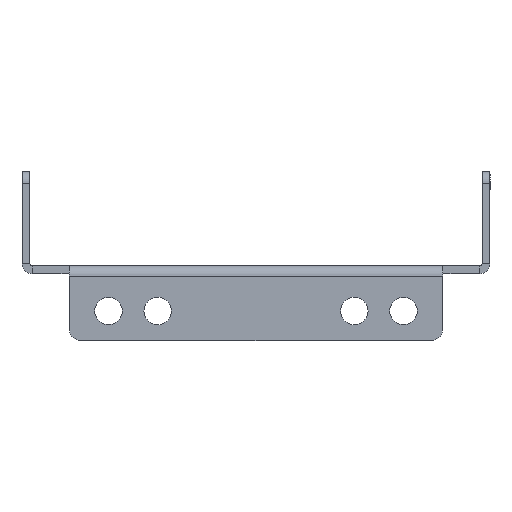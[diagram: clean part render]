
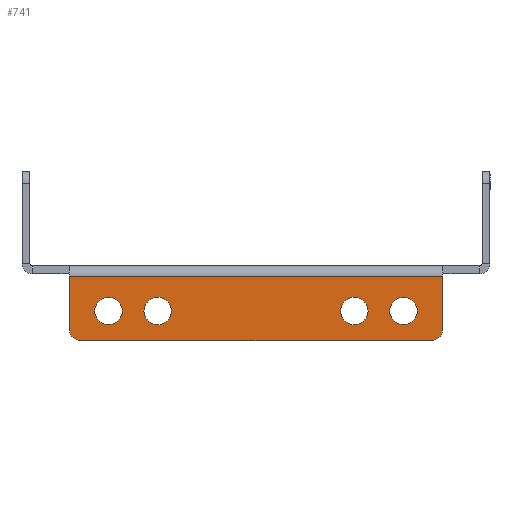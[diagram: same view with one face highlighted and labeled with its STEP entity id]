
A CAD part, left-side view. The second image highlights one B-rep face of the part: STEP entity #741.
In plain terms, the highlighted planar face has unit normal (-1, 0, 0).
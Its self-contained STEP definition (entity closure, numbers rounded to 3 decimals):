
#5 = DIRECTION ( 'NONE',  ( 0., 1., 0. ) ) ;
#25 = DIRECTION ( 'NONE',  ( -1., 0., 0. ) ) ;
#56 = VERTEX_POINT ( 'NONE', #1816 ) ;
#94 = DIRECTION ( 'NONE',  ( 0., 0., -1. ) ) ;
#218 = ORIENTED_EDGE ( 'NONE', *, *, #1894, .F. ) ;
#302 = CARTESIAN_POINT ( 'NONE',  ( -100., -25., -6. ) ) ;
#377 = DIRECTION ( 'NONE',  ( 0., 0., 1. ) ) ;
#435 = CIRCLE ( 'NONE', #3011, 3.5 ) ;
#439 = CIRCLE ( 'NONE', #1687, 3.5 ) ;
#461 = CARTESIAN_POINT ( 'NONE',  ( -100., 47.5, 0. ) ) ;
#539 = VECTOR ( 'NONE', #1649, 1000. ) ;
#568 = CIRCLE ( 'NONE', #1749, 3.5 ) ;
#583 = VERTEX_POINT ( 'NONE', #1236 ) ;
#610 = CARTESIAN_POINT ( 'NONE',  ( -100., 47.5, 0. ) ) ;
#629 = CARTESIAN_POINT ( 'NONE',  ( -100., -44.5, -17. ) ) ;
#637 = VERTEX_POINT ( 'NONE', #302 ) ;
#639 = VERTEX_POINT ( 'NONE', #2636 ) ;
#663 = CARTESIAN_POINT ( 'NONE',  ( -100., 25., -13. ) ) ;
#692 = DIRECTION ( 'NONE',  ( 0., 0., -1. ) ) ;
#710 = EDGE_CURVE ( 'NONE', #2357, #639, #997, .T. ) ;
#713 = DIRECTION ( 'NONE',  ( 0., 0., 1. ) ) ;
#726 = EDGE_LOOP ( 'NONE', ( #2999, #2786 ) ) ;
#741 = ADVANCED_FACE ( 'NONE', ( #1083, #802, #4141, #3764, #1455 ), #1767, .T. ) ;
#764 = AXIS2_PLACEMENT_3D ( 'NONE', #3022, #2693, #4040 ) ;
#799 = EDGE_CURVE ( 'NONE', #4334, #583, #1087, .T. ) ;
#802 = FACE_BOUND ( 'NONE', #2119, .T. ) ;
#906 = VECTOR ( 'NONE', #3746, 1000. ) ;
#997 = LINE ( 'NONE', #4316, #539 ) ;
#1028 = CIRCLE ( 'NONE', #2002, 3. ) ;
#1075 = VERTEX_POINT ( 'NONE', #663 ) ;
#1083 = FACE_BOUND ( 'NONE', #1553, .T. ) ;
#1087 = CIRCLE ( 'NONE', #3538, 3.5 ) ;
#1097 = ORIENTED_EDGE ( 'NONE', *, *, #4236, .T. ) ;
#1193 = CIRCLE ( 'NONE', #3637, 3.5 ) ;
#1222 = AXIS2_PLACEMENT_3D ( 'NONE', #461, #2087, #2442 ) ;
#1236 = CARTESIAN_POINT ( 'NONE',  ( -100., 37.5, -13. ) ) ;
#1263 = CARTESIAN_POINT ( 'NONE',  ( -100., -25., -13. ) ) ;
#1305 = DIRECTION ( 'NONE',  ( -1., 0., 0. ) ) ;
#1325 = CARTESIAN_POINT ( 'NONE',  ( -100., 47.5, -14. ) ) ;
#1427 = ORIENTED_EDGE ( 'NONE', *, *, #2879, .F. ) ;
#1455 = FACE_OUTER_BOUND ( 'NONE', #3030, .T. ) ;
#1483 = CARTESIAN_POINT ( 'NONE',  ( -100., 44.5, -14. ) ) ;
#1521 = CARTESIAN_POINT ( 'NONE',  ( -100., -25., -9.5 ) ) ;
#1545 = CARTESIAN_POINT ( 'NONE',  ( -100., 37.5, -6. ) ) ;
#1553 = EDGE_LOOP ( 'NONE', ( #1632, #218 ) ) ;
#1602 = EDGE_CURVE ( 'NONE', #1075, #1761, #3994, .T. ) ;
#1613 = DIRECTION ( 'NONE',  ( -1., 0., 0. ) ) ;
#1629 = CARTESIAN_POINT ( 'NONE',  ( -100., 47.5, -0.6 ) ) ;
#1632 = ORIENTED_EDGE ( 'NONE', *, *, #2497, .F. ) ;
#1649 = DIRECTION ( 'NONE',  ( 0., 1., 0. ) ) ;
#1687 = AXIS2_PLACEMENT_3D ( 'NONE', #1521, #1852, #1873 ) ;
#1749 = AXIS2_PLACEMENT_3D ( 'NONE', #3944, #1613, #1939 ) ;
#1761 = VERTEX_POINT ( 'NONE', #2232 ) ;
#1767 = PLANE ( 'NONE',  #1222 ) ;
#1811 = CARTESIAN_POINT ( 'NONE',  ( -100., -47.5, -17. ) ) ;
#1815 = CIRCLE ( 'NONE', #3284, 3. ) ;
#1816 = CARTESIAN_POINT ( 'NONE',  ( -100., 47.5, -0.6 ) ) ;
#1852 = DIRECTION ( 'NONE',  ( -1., 0., 0. ) ) ;
#1873 = DIRECTION ( 'NONE',  ( 0., 0., -1. ) ) ;
#1894 = EDGE_CURVE ( 'NONE', #3718, #2562, #568, .T. ) ;
#1939 = DIRECTION ( 'NONE',  ( 0., 0., -1. ) ) ;
#1965 = ORIENTED_EDGE ( 'NONE', *, *, #2866, .T. ) ;
#2002 = AXIS2_PLACEMENT_3D ( 'NONE', #1483, #3477, #2205 ) ;
#2018 = ORIENTED_EDGE ( 'NONE', *, *, #2532, .F. ) ;
#2034 = EDGE_LOOP ( 'NONE', ( #2909, #3266 ) ) ;
#2087 = DIRECTION ( 'NONE',  ( -1., 0., 0. ) ) ;
#2101 = AXIS2_PLACEMENT_3D ( 'NONE', #4089, #2767, #3380 ) ;
#2119 = EDGE_LOOP ( 'NONE', ( #2018, #2225 ) ) ;
#2205 = DIRECTION ( 'NONE',  ( 0., 0., 1. ) ) ;
#2225 = ORIENTED_EDGE ( 'NONE', *, *, #2673, .F. ) ;
#2232 = CARTESIAN_POINT ( 'NONE',  ( -100., 25., -6. ) ) ;
#2357 = VERTEX_POINT ( 'NONE', #629 ) ;
#2359 = VECTOR ( 'NONE', #4126, 1000. ) ;
#2375 = DIRECTION ( 'NONE',  ( -1., 0., 0. ) ) ;
#2434 = VERTEX_POINT ( 'NONE', #1325 ) ;
#2442 = DIRECTION ( 'NONE',  ( 0., 0., 1. ) ) ;
#2497 = EDGE_CURVE ( 'NONE', #2562, #3718, #1193, .T. ) ;
#2532 = EDGE_CURVE ( 'NONE', #637, #4059, #435, .T. ) ;
#2562 = VERTEX_POINT ( 'NONE', #4179 ) ;
#2636 = CARTESIAN_POINT ( 'NONE',  ( -100., 44.5, -17. ) ) ;
#2673 = EDGE_CURVE ( 'NONE', #4059, #637, #439, .T. ) ;
#2693 = DIRECTION ( 'NONE',  ( -1., 0., 0. ) ) ;
#2706 = CARTESIAN_POINT ( 'NONE',  ( -100., 37.5, -9.5 ) ) ;
#2717 = AXIS2_PLACEMENT_3D ( 'NONE', #4326, #1305, #377 ) ;
#2748 = CARTESIAN_POINT ( 'NONE',  ( -100., -47.5, -14. ) ) ;
#2755 = DIRECTION ( 'NONE',  ( 0., 0., 1. ) ) ;
#2767 = DIRECTION ( 'NONE',  ( -1., 0., 0. ) ) ;
#2786 = ORIENTED_EDGE ( 'NONE', *, *, #3581, .F. ) ;
#2866 = EDGE_CURVE ( 'NONE', #2434, #639, #1028, .T. ) ;
#2879 = EDGE_CURVE ( 'NONE', #3181, #3306, #3861, .T. ) ;
#2909 = ORIENTED_EDGE ( 'NONE', *, *, #3700, .F. ) ;
#2969 = ORIENTED_EDGE ( 'NONE', *, *, #4079, .T. ) ;
#2999 = ORIENTED_EDGE ( 'NONE', *, *, #799, .F. ) ;
#3011 = AXIS2_PLACEMENT_3D ( 'NONE', #3674, #25, #94 ) ;
#3022 = CARTESIAN_POINT ( 'NONE',  ( -100., 25., -9.5 ) ) ;
#3030 = EDGE_LOOP ( 'NONE', ( #4116, #1097, #1427, #2969, #3358, #1965 ) ) ;
#3062 = CARTESIAN_POINT ( 'NONE',  ( -100., -44.5, -14. ) ) ;
#3067 = CARTESIAN_POINT ( 'NONE',  ( -100., -37.5, -13. ) ) ;
#3144 = CIRCLE ( 'NONE', #764, 3.5 ) ;
#3181 = VERTEX_POINT ( 'NONE', #3653 ) ;
#3266 = ORIENTED_EDGE ( 'NONE', *, *, #1602, .F. ) ;
#3284 = AXIS2_PLACEMENT_3D ( 'NONE', #3062, #3767, #2755 ) ;
#3306 = VERTEX_POINT ( 'NONE', #2748 ) ;
#3345 = CARTESIAN_POINT ( 'NONE',  ( -100., -37.5, -9.5 ) ) ;
#3358 = ORIENTED_EDGE ( 'NONE', *, *, #4120, .F. ) ;
#3369 = LINE ( 'NONE', #1629, #3785 ) ;
#3380 = DIRECTION ( 'NONE',  ( 0., 0., 1. ) ) ;
#3477 = DIRECTION ( 'NONE',  ( -1., 0., 0. ) ) ;
#3538 = AXIS2_PLACEMENT_3D ( 'NONE', #2706, #2375, #713 ) ;
#3581 = EDGE_CURVE ( 'NONE', #583, #4334, #3701, .T. ) ;
#3637 = AXIS2_PLACEMENT_3D ( 'NONE', #3345, #3697, #692 ) ;
#3653 = CARTESIAN_POINT ( 'NONE',  ( -100., -47.5, -0.6 ) ) ;
#3674 = CARTESIAN_POINT ( 'NONE',  ( -100., -25., -9.5 ) ) ;
#3697 = DIRECTION ( 'NONE',  ( -1., 0., 0. ) ) ;
#3699 = LINE ( 'NONE', #610, #906 ) ;
#3700 = EDGE_CURVE ( 'NONE', #1761, #1075, #3144, .T. ) ;
#3701 = CIRCLE ( 'NONE', #2717, 3.5 ) ;
#3718 = VERTEX_POINT ( 'NONE', #3067 ) ;
#3746 = DIRECTION ( 'NONE',  ( 0., 0., 1. ) ) ;
#3764 = FACE_BOUND ( 'NONE', #726, .T. ) ;
#3767 = DIRECTION ( 'NONE',  ( -1., 0., 0. ) ) ;
#3785 = VECTOR ( 'NONE', #5, 1000. ) ;
#3861 = LINE ( 'NONE', #1811, #2359 ) ;
#3944 = CARTESIAN_POINT ( 'NONE',  ( -100., -37.5, -9.5 ) ) ;
#3994 = CIRCLE ( 'NONE', #2101, 3.5 ) ;
#4040 = DIRECTION ( 'NONE',  ( 0., 0., 1. ) ) ;
#4059 = VERTEX_POINT ( 'NONE', #1263 ) ;
#4079 = EDGE_CURVE ( 'NONE', #3181, #56, #3369, .T. ) ;
#4089 = CARTESIAN_POINT ( 'NONE',  ( -100., 25., -9.5 ) ) ;
#4116 = ORIENTED_EDGE ( 'NONE', *, *, #710, .F. ) ;
#4120 = EDGE_CURVE ( 'NONE', #2434, #56, #3699, .T. ) ;
#4126 = DIRECTION ( 'NONE',  ( 0., 0., -1. ) ) ;
#4141 = FACE_BOUND ( 'NONE', #2034, .T. ) ;
#4179 = CARTESIAN_POINT ( 'NONE',  ( -100., -37.5, -6. ) ) ;
#4236 = EDGE_CURVE ( 'NONE', #2357, #3306, #1815, .T. ) ;
#4316 = CARTESIAN_POINT ( 'NONE',  ( -100., 47.5, -17. ) ) ;
#4326 = CARTESIAN_POINT ( 'NONE',  ( -100., 37.5, -9.5 ) ) ;
#4334 = VERTEX_POINT ( 'NONE', #1545 ) ;
